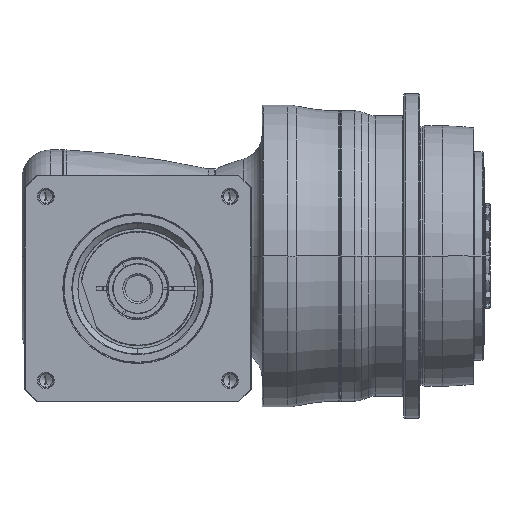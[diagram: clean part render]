
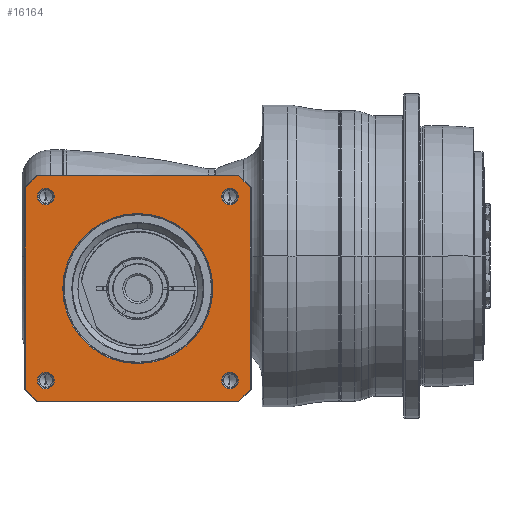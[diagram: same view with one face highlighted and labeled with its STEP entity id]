
A CAD part, front view. The second image highlights one B-rep face of the part: STEP entity #16164.
In plain terms, the highlighted planar face has unit normal (0, -1, 0) as drawn and (0, 0, 1) by its records, which use the part's own axes.
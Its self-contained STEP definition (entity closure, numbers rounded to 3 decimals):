
#14915=CARTESIAN_POINT('',(0.,0.,
76.));
#14916=DIRECTION('',(0.,0.,-1.));
#14917=DIRECTION('',(0.,-1.,0.));
#14918=AXIS2_PLACEMENT_3D('',#14915,#14916,#14917);
#14920=CARTESIAN_POINT('',(0.,0.,
76.));
#14921=DIRECTION('',(0.,0.,-1.));
#14922=DIRECTION('',(0.,1.,0.));
#14923=AXIS2_PLACEMENT_3D('',#14920,#14921,#14922);
#14925=CARTESIAN_POINT('',(0.,0.,76.));
#14926=DIRECTION('',(0.,0.,1.));
#14927=DIRECTION('',(-0.746,-0.666,0.));
#14928=AXIS2_PLACEMENT_3D('',#14925,#14926,#14927);
#14940=DIRECTION('',(1.,0.,0.));
#14941=VECTOR('',#14940,154.58);
#14942=CARTESIAN_POINT('',(-77.29,-86.5,76.));
#14943=LINE('',#14942,#14941);
#14953=CARTESIAN_POINT('',(0.,0.,76.));
#14954=DIRECTION('',(0.,0.,1.));
#14955=DIRECTION('',(0.666,-0.746,0.));
#14956=AXIS2_PLACEMENT_3D('',#14953,#14954,#14955);
#14968=DIRECTION('',(0.,1.,0.));
#14969=VECTOR('',#14968,154.58);
#14970=CARTESIAN_POINT('',(86.5,-77.29,76.));
#14971=LINE('',#14970,#14969);
#14981=CARTESIAN_POINT('',(0.,0.,76.));
#14982=DIRECTION('',(0.,0.,1.));
#14983=DIRECTION('',(0.746,0.666,0.));
#14984=AXIS2_PLACEMENT_3D('',#14981,#14982,#14983);
#14996=DIRECTION('',(-1.,0.,0.));
#14997=VECTOR('',#14996,154.58);
#14998=CARTESIAN_POINT('',(77.29,86.5,76.));
#14999=LINE('',#14998,#14997);
#15004=CARTESIAN_POINT('',(0.,0.,76.));
#15005=DIRECTION('',(0.,0.,1.));
#15006=DIRECTION('',(-0.666,0.746,0.));
#15007=AXIS2_PLACEMENT_3D('',#15004,#15005,#15006);
#15024=DIRECTION('',(0.,-1.,0.));
#15025=VECTOR('',#15024,154.58);
#15026=CARTESIAN_POINT('',(-86.5,77.29,76.));
#15027=LINE('',#15026,#15025);
#15110=CARTESIAN_POINT('',(-70.711,70.711,76.));
#15111=DIRECTION('',(0.,0.,1.));
#15112=DIRECTION('',(-1.,0.,0.));
#15113=AXIS2_PLACEMENT_3D('',#15110,#15111,#15112);
#15128=CARTESIAN_POINT('',(-70.711,70.711,76.));
#15129=DIRECTION('',(0.,0.,1.));
#15130=DIRECTION('',(1.,0.,0.));
#15131=AXIS2_PLACEMENT_3D('',#15128,#15129,#15130);
#15164=CARTESIAN_POINT('',(70.711,70.711,76.));
#15165=DIRECTION('',(0.,0.,1.));
#15166=DIRECTION('',(-1.,0.,0.));
#15167=AXIS2_PLACEMENT_3D('',#15164,#15165,#15166);
#15182=CARTESIAN_POINT('',(70.711,70.711,76.));
#15183=DIRECTION('',(0.,0.,1.));
#15184=DIRECTION('',(1.,0.,0.));
#15185=AXIS2_PLACEMENT_3D('',#15182,#15183,#15184);
#15218=CARTESIAN_POINT('',(70.711,-70.711,76.));
#15219=DIRECTION('',(0.,0.,1.));
#15220=DIRECTION('',(-1.,0.,0.));
#15221=AXIS2_PLACEMENT_3D('',#15218,#15219,#15220);
#15236=CARTESIAN_POINT('',(70.711,-70.711,76.));
#15237=DIRECTION('',(0.,0.,1.));
#15238=DIRECTION('',(1.,0.,0.));
#15239=AXIS2_PLACEMENT_3D('',#15236,#15237,#15238);
#15272=CARTESIAN_POINT('',(-70.711,-70.711,76.));
#15273=DIRECTION('',(0.,0.,1.));
#15274=DIRECTION('',(-1.,0.,0.));
#15275=AXIS2_PLACEMENT_3D('',#15272,#15273,#15274);
#15290=CARTESIAN_POINT('',(-70.711,-70.711,76.));
#15291=DIRECTION('',(0.,0.,1.));
#15292=DIRECTION('',(1.,0.,0.));
#15293=AXIS2_PLACEMENT_3D('',#15290,#15291,#15292);
#15422=CARTESIAN_POINT('',(86.5,-77.29,76.));
#15423=CARTESIAN_POINT('',(86.5,77.29,76.));
#15424=VERTEX_POINT('',#15422);
#15425=VERTEX_POINT('',#15423);
#15430=CARTESIAN_POINT('',(77.29,-86.5,76.));
#15431=VERTEX_POINT('',#15430);
#15434=CARTESIAN_POINT('',(-77.29,-86.5,76.));
#15435=VERTEX_POINT('',#15434);
#15438=CARTESIAN_POINT('',(-86.5,-77.29,76.));
#15439=VERTEX_POINT('',#15438);
#15442=CARTESIAN_POINT('',(-86.5,77.29,76.));
#15443=VERTEX_POINT('',#15442);
#15446=CARTESIAN_POINT('',(-77.29,86.5,76.));
#15447=VERTEX_POINT('',#15446);
#15450=CARTESIAN_POINT('',(77.29,86.5,76.));
#15451=VERTEX_POINT('',#15450);
#15460=CARTESIAN_POINT('',(-77.111,70.711,76.));
#15461=CARTESIAN_POINT('',(-64.311,70.711,76.));
#15462=VERTEX_POINT('',#15460);
#15463=VERTEX_POINT('',#15461);
#15486=CARTESIAN_POINT('',(77.111,70.711,76.));
#15487=CARTESIAN_POINT('',(64.311,70.711,76.));
#15488=VERTEX_POINT('',#15486);
#15489=VERTEX_POINT('',#15487);
#15494=CARTESIAN_POINT('',(77.111,-70.711,76.));
#15495=CARTESIAN_POINT('',(64.311,-70.711,76.));
#15496=VERTEX_POINT('',#15494);
#15497=VERTEX_POINT('',#15495);
#15502=CARTESIAN_POINT('',(-64.311,-70.711,76.));
#15503=CARTESIAN_POINT('',(-77.111,-70.711,76.));
#15504=VERTEX_POINT('',#15502);
#15505=VERTEX_POINT('',#15503);
#15510=CARTESIAN_POINT('',(0.,-57.65,76.));
#15511=CARTESIAN_POINT('',(0.,57.65,
76.));
#15512=VERTEX_POINT('',#15510);
#15513=VERTEX_POINT('',#15511);
#16112=CARTESIAN_POINT('',(0.,0.,76.));
#16113=DIRECTION('',(0.,0.,1.));
#16114=DIRECTION('',(1.,0.,0.));
#16115=AXIS2_PLACEMENT_3D('',#16112,#16113,#16114);
#16116=PLANE('',#16115);
#16118=ORIENTED_EDGE('',*,*,#16117,.F.);
#16120=ORIENTED_EDGE('',*,*,#16119,.F.);
#16122=ORIENTED_EDGE('',*,*,#16121,.F.);
#16124=ORIENTED_EDGE('',*,*,#16123,.F.);
#16126=ORIENTED_EDGE('',*,*,#16125,.F.);
#16128=ORIENTED_EDGE('',*,*,#16127,.F.);
#16130=ORIENTED_EDGE('',*,*,#16129,.F.);
#16132=ORIENTED_EDGE('',*,*,#16131,.F.);
#16133=EDGE_LOOP('',(#16118,#16120,#16122,#16124,#16126,#16128,#16130,#16132));
#16134=FACE_OUTER_BOUND('',#16133,.F.);
#16135=ORIENTED_EDGE('',*,*,#16102,.F.);
#16137=ORIENTED_EDGE('',*,*,#16136,.F.);
#16138=EDGE_LOOP('',(#16135,#16137));
#16139=FACE_BOUND('',#16138,.F.);
#16141=ORIENTED_EDGE('',*,*,#16140,.T.);
#16143=ORIENTED_EDGE('',*,*,#16142,.T.);
#16144=EDGE_LOOP('',(#16141,#16143));
#16145=FACE_BOUND('',#16144,.F.);
#16147=ORIENTED_EDGE('',*,*,#16146,.T.);
#16149=ORIENTED_EDGE('',*,*,#16148,.T.);
#16150=EDGE_LOOP('',(#16147,#16149));
#16151=FACE_BOUND('',#16150,.F.);
#16153=ORIENTED_EDGE('',*,*,#16152,.T.);
#16155=ORIENTED_EDGE('',*,*,#16154,.T.);
#16156=EDGE_LOOP('',(#16153,#16155));
#16157=FACE_BOUND('',#16156,.F.);
#16159=ORIENTED_EDGE('',*,*,#16158,.T.);
#16161=ORIENTED_EDGE('',*,*,#16160,.T.);
#16162=EDGE_LOOP('',(#16159,#16161));
#16163=FACE_BOUND('',#16162,.F.);
#16164=ADVANCED_FACE('',(#16134,#16139,#16145,#16151,#16157,#16163),#16116,.T.);
#14919=CIRCLE('',#14918,57.65);
#14924=CIRCLE('',#14923,57.65);
#14929=CIRCLE('',#14928,116.);
#14957=CIRCLE('',#14956,116.);
#14985=CIRCLE('',#14984,116.);
#15008=CIRCLE('',#15007,116.);
#15114=CIRCLE('',#15113,6.4);
#15132=CIRCLE('',#15131,6.4);
#15168=CIRCLE('',#15167,6.4);
#15186=CIRCLE('',#15185,6.4);
#15222=CIRCLE('',#15221,6.4);
#15240=CIRCLE('',#15239,6.4);
#15276=CIRCLE('',#15275,6.4);
#15294=CIRCLE('',#15293,6.4);
#16102=EDGE_CURVE('',#15512,#15513,#14919,.T.);
#16117=EDGE_CURVE('',#15439,#15435,#14929,.T.);
#16119=EDGE_CURVE('',#15443,#15439,#15027,.T.);
#16121=EDGE_CURVE('',#15447,#15443,#15008,.T.);
#16123=EDGE_CURVE('',#15451,#15447,#14999,.T.);
#16125=EDGE_CURVE('',#15425,#15451,#14985,.T.);
#16127=EDGE_CURVE('',#15424,#15425,#14971,.T.);
#16129=EDGE_CURVE('',#15431,#15424,#14957,.T.);
#16131=EDGE_CURVE('',#15435,#15431,#14943,.T.);
#16136=EDGE_CURVE('',#15513,#15512,#14924,.T.);
#16140=EDGE_CURVE('',#15462,#15463,#15114,.T.);
#16142=EDGE_CURVE('',#15463,#15462,#15132,.T.);
#16146=EDGE_CURVE('',#15489,#15488,#15168,.T.);
#16148=EDGE_CURVE('',#15488,#15489,#15186,.T.);
#16152=EDGE_CURVE('',#15497,#15496,#15222,.T.);
#16154=EDGE_CURVE('',#15496,#15497,#15240,.T.);
#16158=EDGE_CURVE('',#15505,#15504,#15276,.T.);
#16160=EDGE_CURVE('',#15504,#15505,#15294,.T.);
